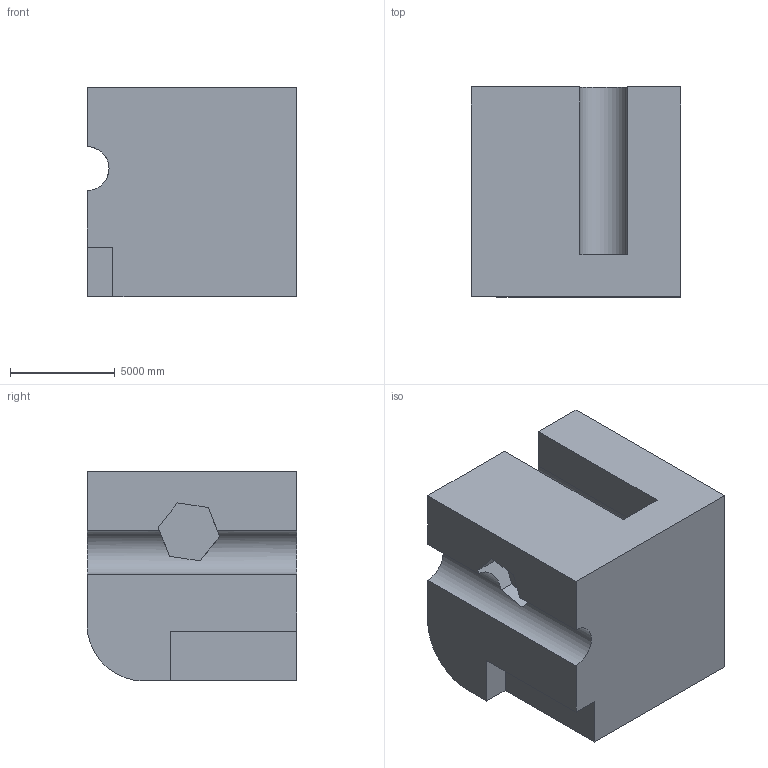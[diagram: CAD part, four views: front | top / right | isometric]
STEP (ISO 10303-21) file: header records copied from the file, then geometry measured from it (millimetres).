
FILE_DESCRIPTION (( 'STEP AP203' ), '1' );
FILE_NAME ('128.STEP', '2022-08-31T11:45:54', ( 'user' ), ( '' ), 'SwSTEP 2.0', 'SolidWorks 2021', '' );
FILE_SCHEMA (( 'CONFIG_CONTROL_DESIGN' ));
Length unit declared in the file: centimetre
Products named in the file (1): 128
Bounding box: 10000 x 10000 x 10000 mm (x, y, z)
Volume: 859180597343.4 mm3; surface area: 702236082.3 mm2
Topology: 1 solids, 1 shells, 29 faces, 75 edges, 50 vertices
Faces by surface type: plane 22, cylinder 7
Entity records: 960 total; most frequent: CARTESIAN_POINT 167, ORIENTED_EDGE 150, DIRECTION 145, EDGE_CURVE 75, VECTOR 57, LINE 57, VERTEX_POINT 50, AXIS2_PLACEMENT_3D 44
